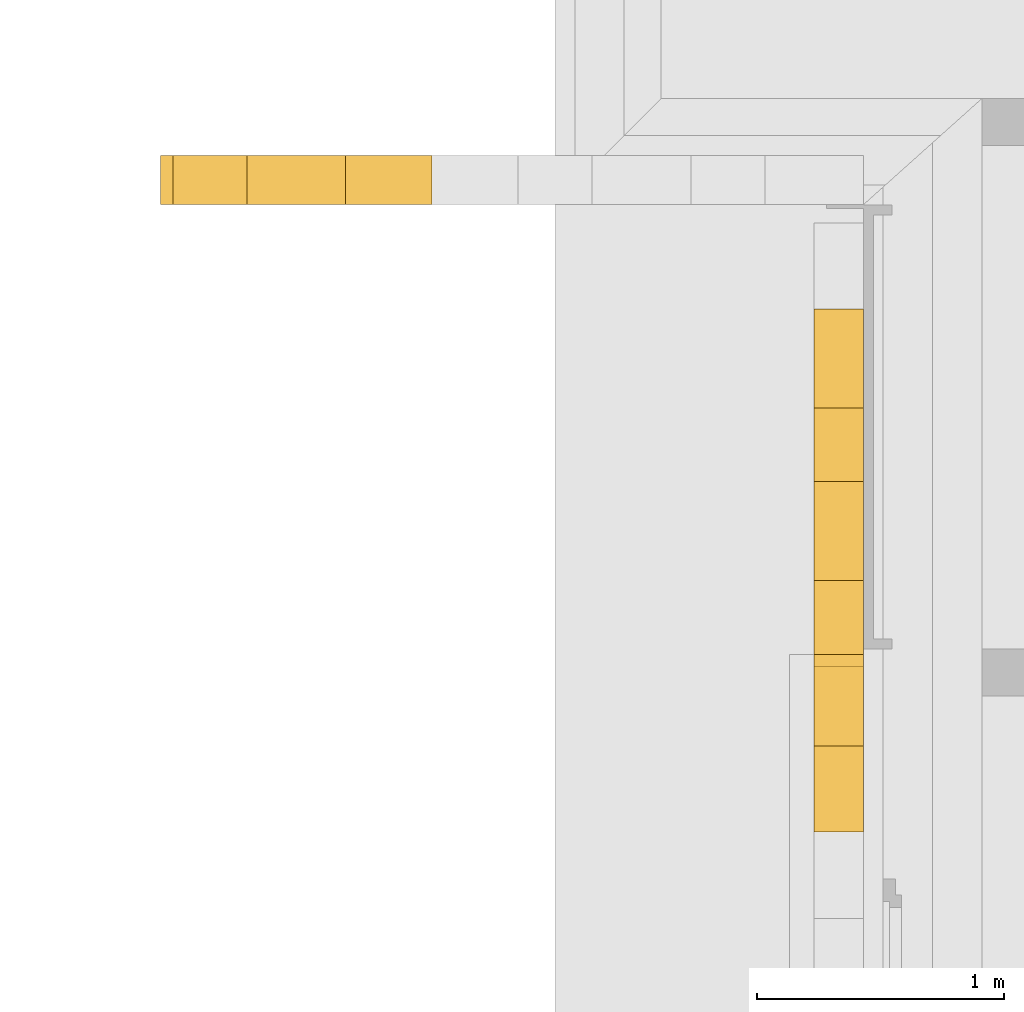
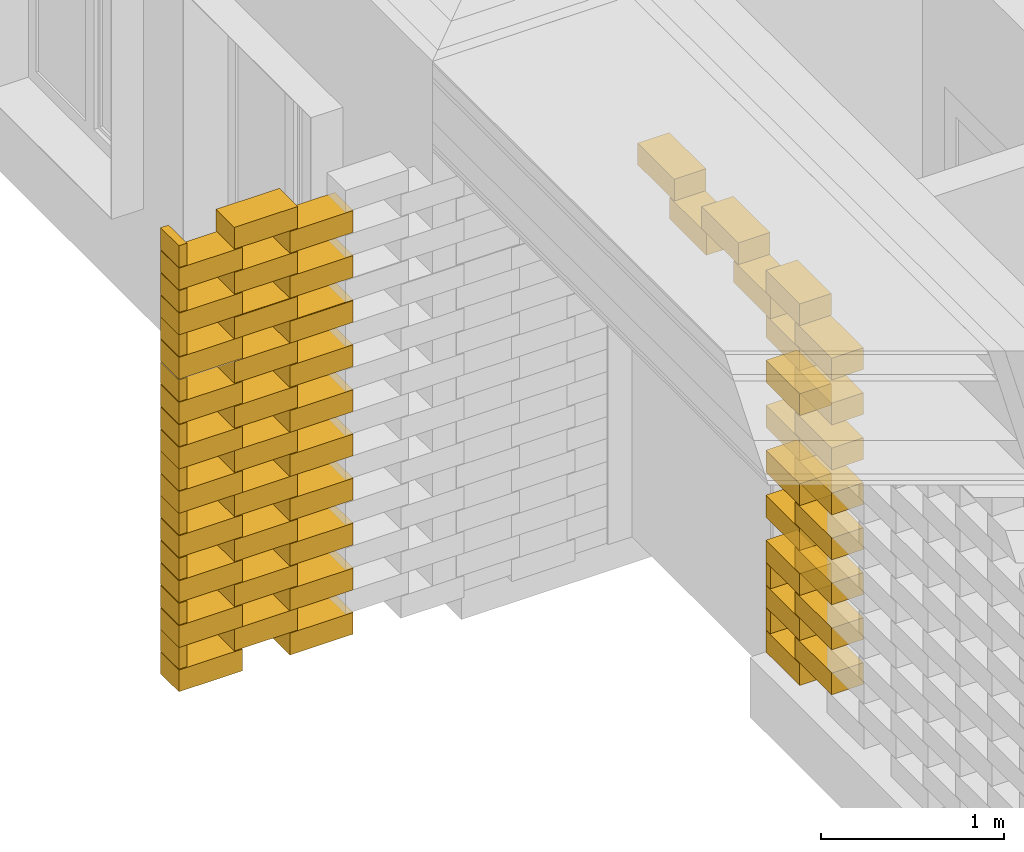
# One storey, part 58 of 62: 69 railings.
"""IFC2X3 building model written with IfcOpenShell, lengths in millimetres."""

from ifc_helpers import new_model, entity, si_unit, converted_unit, derived_unit, money_unit, direction, frame, origin_with_axes, place, context, subcontext, project, spatial, polyline, outline, extrude, material, type_object, element, save


model = new_model("IFC2X3")

# Units and contexts
model_context = context("Model", 3, precision=0.01, world=origin_with_axes(), true_north=direction((0.0, 1.0)))
body_context = subcontext(model_context, "Body", "Model", "MODEL_VIEW")
ifc_project = project(units=[si_unit("LENGTHUNIT", "METRE", prefix="MILLI"), si_unit("AREAUNIT", "SQUARE_METRE"), si_unit("VOLUMEUNIT", "CUBIC_METRE"), converted_unit("PLANEANGLEUNIT", "DEGREE", entity("IfcPlaneAngleMeasure", 0.0174532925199), si_unit("PLANEANGLEUNIT", "RADIAN"), dimensions=[0, 0, 0, 0, 0, 0, 0]), si_unit("SOLIDANGLEUNIT", "STERADIAN"), money_unit("EUR"), converted_unit("TIMEUNIT", "Year", entity("IfcTimeMeasure", 31556926.0), si_unit("TIMEUNIT", "SECOND"), dimensions=[0, 0, 1, 0, 0, 0, 0]), si_unit("MASSUNIT", "GRAM", prefix="KILO"), si_unit("THERMODYNAMICTEMPERATUREUNIT", "DEGREE_CELSIUS"), si_unit("LUMINOUSINTENSITYUNIT", "LUMEN"), si_unit("ENERGYUNIT", "JOULE", prefix="MEGA"), derived_unit("THERMALCONDUCTANCEUNIT", [(si_unit("POWERUNIT", "WATT"), 1), (si_unit("LENGTHUNIT", "METRE"), -1), (si_unit("THERMODYNAMICTEMPERATUREUNIT", "KELVIN"), -1)]), derived_unit("SPECIFICHEATCAPACITYUNIT", [(si_unit("ENERGYUNIT", "JOULE"), 1), (si_unit("MASSUNIT", "GRAM", prefix="KILO"), -1), (si_unit("THERMODYNAMICTEMPERATUREUNIT", "KELVIN"), -1)]), derived_unit("MASSDENSITYUNIT", [(si_unit("MASSUNIT", "GRAM", prefix="KILO"), 1), (si_unit("VOLUMEUNIT", "CUBIC_METRE"), -1)])], contexts=[model_context])

# Site, building, storey
site_placement = place(None, origin_with_axes())
site = spatial("IfcSite", under=ifc_project, at=site_placement, Name="KIRDE 14, ELVA", CompositionType="ELEMENT")
building_placement = place(site_placement, origin_with_axes())
building = spatial("IfcBuilding", under=site, at=building_placement, Name="PPA ja Päästeameti ühishoone", CompositionType="ELEMENT")
storey_placement = place(building_placement, origin_with_axes())
storey = spatial("IfcBuildingStorey", under=building, at=storey_placement, Name="Esimene korrus", CompositionType="ELEMENT", Elevation=0.0)

# Railings
ifc_material = material(Name="Air Space")
railing_type = type_object("IfcRailingType", Name="Air Space 200", PredefinedType="NOTDEFINED")
railing_1_placement = place(storey_placement, frame((-1979.99985324, 11170.3967568, 700.0), z_axis=(0.0, 0.0, 1.0), x_axis=(-1.0, 0.0, 0.0)))
element("IfcRailing", 1, at=railing_1_placement, inside=storey, type_object=railing_type, material=ifc_material, Name="plokk", PredefinedType="NOTDEFINED", context=body_context, shape_type="SweptSolid", body=[
    extrude(outline(polyline([(0.0, 0.0), (50.0000000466, 0.0), (50.0000000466, 200.0), (0.0, 200.0), (0.0, 0.0)])), origin_with_axes(), (0.0, 0.0, 1.0), 145.0),
])
railing_2_placement = place(storey_placement, frame((-929.999853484, 11170.3967578, 550.0), z_axis=(0.0, 0.0, 1.0), x_axis=(-1.0, -2.32830643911e-09, 0.0)))
element("IfcRailing", 2, at=railing_2_placement, inside=storey, type_object=railing_type, material=ifc_material, Name="plokk", PredefinedType="NOTDEFINED", context=body_context, shape_type="SweptSolid", body=[
    extrude(outline(polyline([(0.0, 0.0), (399.999999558, 0.0), (399.999999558, 200.0), (0.0, 200.0), (0.0, 0.0)])), origin_with_axes(), (0.0, 0.0, 1.0), 145.0),
])
for number, where, z_axis, x_axis in (
    (3, (620.000147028, 10196.9244882, 2650.0), (0.0, 0.0, 1.0), (1.30967237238e-09, -1.0, 0.0)),
    (4, (620.000146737, 10546.9244879, 2800.0), (0.0, 0.0, 1.0), (2.91038304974e-10, -1.0, 0.0)),
):
    element("IfcRailing", number, at=place(storey_placement, frame(where, z_axis=z_axis, x_axis=x_axis)), inside=storey, type_object=railing_type, material=ifc_material, Name="plokk", PredefinedType="NOTDEFINED", context=body_context, shape_type="SweptSolid", body=[
        extrude(outline(polyline([(0.0, 0.0), (399.999999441, 0.0), (399.999999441, 200.0), (0.0, 200.0), (0.0, 0.0)])), origin_with_axes(), (0.0, 0.0, 1.0), 145.0),
    ])
railing_3_placement = place(storey_placement, frame((-1629.99985303, 11170.3967578, 550.0), z_axis=(0.0, 0.0, 1.0), x_axis=(-1.0, -2.32830643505e-09, 0.0)))
element("IfcRailing", 5, at=railing_3_placement, inside=storey, type_object=railing_type, material=ifc_material, Name="plokk", PredefinedType="NOTDEFINED", context=body_context, shape_type="SweptSolid", body=[
    extrude(outline(polyline([(0.0, 0.0), (400.000000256, 0.0), (400.000000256, 200.0), (0.0, 200.0), (0.0, 0.0)])), origin_with_axes(), (0.0, 0.0, 1.0), 145.0),
])
railing_4_placement = place(storey_placement, frame((-1279.999853, 11170.3967568, 700.0), z_axis=(0.0, 0.0, 1.0), x_axis=(-1.0, -2.32830643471e-09, 0.0)))
element("IfcRailing", 6, at=railing_4_placement, inside=storey, type_object=railing_type, material=ifc_material, Name="plokk", PredefinedType="NOTDEFINED", context=body_context, shape_type="SweptSolid", body=[
    extrude(outline(polyline([(0.0, 0.0), (400.000000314, 0.0), (400.000000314, 200.0), (0.0, 200.0), (0.0, 0.0)])), origin_with_axes(), (0.0, 0.0, 1.0), 145.0),
])
railing_5_placement = place(storey_placement, frame((-929.999853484, 11170.3967578, 250.0), z_axis=(0.0, 0.0, 1.0), x_axis=(-1.0, -2.32830643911e-09, 0.0)))
element("IfcRailing", 7, at=railing_5_placement, inside=storey, type_object=railing_type, material=ifc_material, Name="plokk", PredefinedType="NOTDEFINED", context=body_context, shape_type="SweptSolid", body=[
    extrude(outline(polyline([(0.0, 0.0), (399.999999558, 0.0), (399.999999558, 200.0), (0.0, 200.0), (0.0, 0.0)])), origin_with_axes(), (0.0, 0.0, 1.0), 145.0),
])
railing_6_placement = place(storey_placement, frame((-1279.999853, 11170.3967568, 105.0), z_axis=(0.0, 0.0, 1.0), x_axis=(-1.0, -2.32830643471e-09, 0.0)))
element("IfcRailing", 8, at=railing_6_placement, inside=storey, type_object=railing_type, material=ifc_material, Name="plokk", PredefinedType="NOTDEFINED", context=body_context, shape_type="SweptSolid", body=[
    extrude(outline(polyline([(0.0, 0.0), (400.000000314, 0.0), (400.000000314, 200.0), (0.0, 200.0), (0.0, 0.0)])), origin_with_axes(), (0.0, 0.0, 1.0), 145.0),
])
for number, where, z_axis, x_axis in (
    (9, (-1629.99985303, 11170.3967578, 250.0), (0.0, 0.0, 1.0), (-1.0, -2.32830643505e-09, 0.0)),
    (10, (-1629.99985303, 11170.3967578, -45.0), (0.0, 0.0, 1.0), (-1.0, -2.32830643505e-09, 0.0)),
):
    element("IfcRailing", number, at=place(storey_placement, frame(where, z_axis=z_axis, x_axis=x_axis)), inside=storey, type_object=railing_type, material=ifc_material, Name="plokk", PredefinedType="NOTDEFINED", context=body_context, shape_type="SweptSolid", body=[
        extrude(outline(polyline([(0.0, 0.0), (400.000000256, 0.0), (400.000000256, 200.0), (0.0, 200.0), (0.0, 0.0)])), origin_with_axes(), (0.0, 0.0, 1.0), 145.0),
    ])
railing_7_placement = place(storey_placement, frame((-1279.999853, 11170.3967568, 400.0), z_axis=(0.0, 0.0, 1.0), x_axis=(-1.0, -2.32830643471e-09, 0.0)))
element("IfcRailing", 11, at=railing_7_placement, inside=storey, type_object=railing_type, material=ifc_material, Name="plokk", PredefinedType="NOTDEFINED", context=body_context, shape_type="SweptSolid", body=[
    extrude(outline(polyline([(0.0, 0.0), (400.000000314, 0.0), (400.000000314, 200.0), (0.0, 200.0), (0.0, 0.0)])), origin_with_axes(), (0.0, 0.0, 1.0), 145.0),
])
railing_8_placement = place(storey_placement, frame((-1979.99985324, 11170.3967568, 1000.0), z_axis=(0.0, 0.0, 1.0), x_axis=(-1.0, 0.0, 0.0)))
element("IfcRailing", 12, at=railing_8_placement, inside=storey, type_object=railing_type, material=ifc_material, Name="plokk", PredefinedType="NOTDEFINED", context=body_context, shape_type="SweptSolid", body=[
    extrude(outline(polyline([(0.0, 0.0), (50.0000000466, 0.0), (50.0000000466, 200.0), (0.0, 200.0), (0.0, 0.0)])), origin_with_axes(), (0.0, 0.0, 1.0), 145.0),
])
railing_9_placement = place(storey_placement, frame((-1279.999853, 11170.3967568, 1000.0), z_axis=(0.0, 0.0, 1.0), x_axis=(-1.0, -2.32830643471e-09, 0.0)))
element("IfcRailing", 13, at=railing_9_placement, inside=storey, type_object=railing_type, material=ifc_material, Name="plokk", PredefinedType="NOTDEFINED", context=body_context, shape_type="SweptSolid", body=[
    extrude(outline(polyline([(0.0, 0.0), (400.000000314, 0.0), (400.000000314, 200.0), (0.0, 200.0), (0.0, 0.0)])), origin_with_axes(), (0.0, 0.0, 1.0), 145.0),
])
for number, where, z_axis, x_axis in (
    (14, (-929.999853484, 11170.3967578, 850.0), (0.0, 0.0, 1.0), (-1.0, -2.32830643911e-09, 0.0)),
    (15, (-929.999853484, 11170.3967578, -45.0), (0.0, 0.0, 1.0), (-1.0, -2.32830643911e-09, 0.0)),
):
    element("IfcRailing", number, at=place(storey_placement, frame(where, z_axis=z_axis, x_axis=x_axis)), inside=storey, type_object=railing_type, material=ifc_material, Name="plokk", PredefinedType="NOTDEFINED", context=body_context, shape_type="SweptSolid", body=[
        extrude(outline(polyline([(0.0, 0.0), (399.999999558, 0.0), (399.999999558, 200.0), (0.0, 200.0), (0.0, 0.0)])), origin_with_axes(), (0.0, 0.0, 1.0), 145.0),
    ])
railing_10_placement = place(storey_placement, frame((-1979.99985324, 11170.3967568, 105.0), z_axis=(0.0, 0.0, 1.0), x_axis=(-1.0, 0.0, 0.0)))
element("IfcRailing", 16, at=railing_10_placement, inside=storey, type_object=railing_type, material=ifc_material, Name="plokk", PredefinedType="NOTDEFINED", context=body_context, shape_type="SweptSolid", body=[
    extrude(outline(polyline([(0.0, 0.0), (50.0000000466, 0.0), (50.0000000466, 200.0), (0.0, 200.0), (0.0, 0.0)])), origin_with_axes(), (0.0, 0.0, 1.0), 145.0),
])
railing_11_placement = place(storey_placement, frame((620.000147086, 9146.92448748, 550.0), z_axis=(0.0, 0.0, 1.0), x_axis=(4.65661289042e-09, -1.0, 0.0)))
element("IfcRailing", 17, at=railing_11_placement, inside=storey, type_object=railing_type, material=ifc_material, Name="plokk", PredefinedType="NOTDEFINED", context=body_context, shape_type="SweptSolid", body=[
    extrude(outline(polyline([(0.0, 0.0), (49.9999998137, 0.0), (49.9999998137, 200.0), (0.0, 200.0), (0.0, 0.0)])), origin_with_axes(), (0.0, 0.0, 1.0), 145.0),
])
railing_12_placement = place(storey_placement, frame((-1629.99985303, 11170.3967578, 850.0), z_axis=(0.0, 0.0, 1.0), x_axis=(-1.0, -2.32830643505e-09, 0.0)))
element("IfcRailing", 18, at=railing_12_placement, inside=storey, type_object=railing_type, material=ifc_material, Name="plokk", PredefinedType="NOTDEFINED", context=body_context, shape_type="SweptSolid", body=[
    extrude(outline(polyline([(0.0, 0.0), (400.000000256, 0.0), (400.000000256, 200.0), (0.0, 200.0), (0.0, 0.0)])), origin_with_axes(), (0.0, 0.0, 1.0), 145.0),
])
railing_13_placement = place(storey_placement, frame((-1279.99985346, 11170.3967568, 1590.0), z_axis=(0.0, 0.0, 1.0), x_axis=(-1.0, -2.32830643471e-09, 0.0)))
element("IfcRailing", 19, at=railing_13_placement, inside=storey, type_object=railing_type, material=ifc_material, Name="plokk", PredefinedType="NOTDEFINED", context=body_context, shape_type="SweptSolid", body=[
    extrude(outline(polyline([(0.0, 0.0), (400.000000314, 0.0), (400.000000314, 200.0), (0.0, 200.0), (0.0, 0.0)])), origin_with_axes(), (0.0, 0.0, 1.0), 145.0),
])
railing_14_placement = place(storey_placement, frame((-1979.99985371, 11170.3967568, 1590.0), z_axis=(0.0, 0.0, 1.0), x_axis=(-1.0, 0.0, 0.0)))
element("IfcRailing", 20, at=railing_14_placement, inside=storey, type_object=railing_type, material=ifc_material, Name="plokk", PredefinedType="NOTDEFINED", context=body_context, shape_type="SweptSolid", body=[
    extrude(outline(polyline([(0.0, 0.0), (50.0000000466, 0.0), (50.0000000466, 200.0), (0.0, 200.0), (0.0, 0.0)])), origin_with_axes(), (0.0, 0.0, 1.0), 145.0),
])
railing_15_placement = place(storey_placement, frame((-929.99985395, 11170.3967578, 1740.0), z_axis=(0.0, 0.0, 1.0), x_axis=(-1.0, -2.32830643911e-09, 0.0)))
element("IfcRailing", 21, at=railing_15_placement, inside=storey, type_object=railing_type, material=ifc_material, Name="plokk", PredefinedType="NOTDEFINED", context=body_context, shape_type="SweptSolid", body=[
    extrude(outline(polyline([(0.0, 0.0), (399.999999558, 0.0), (399.999999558, 200.0), (0.0, 200.0), (0.0, 0.0)])), origin_with_axes(), (0.0, 0.0, 1.0), 145.0),
])
railing_16_placement = place(storey_placement, frame((-1279.99985346, 11170.3967568, 1890.0), z_axis=(0.0, 0.0, 1.0), x_axis=(-1.0, -2.32830643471e-09, 0.0)))
element("IfcRailing", 22, at=railing_16_placement, inside=storey, type_object=railing_type, material=ifc_material, Name="plokk", PredefinedType="NOTDEFINED", context=body_context, shape_type="SweptSolid", body=[
    extrude(outline(polyline([(0.0, 0.0), (400.000000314, 0.0), (400.000000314, 200.0), (0.0, 200.0), (0.0, 0.0)])), origin_with_axes(), (0.0, 0.0, 1.0), 145.0),
])
railing_17_placement = place(storey_placement, frame((-1979.99985371, 11170.3967568, 1890.0), z_axis=(0.0, 0.0, 1.0), x_axis=(-1.0, 0.0, 0.0)))
element("IfcRailing", 23, at=railing_17_placement, inside=storey, type_object=railing_type, material=ifc_material, Name="plokk", PredefinedType="NOTDEFINED", context=body_context, shape_type="SweptSolid", body=[
    extrude(outline(polyline([(0.0, 0.0), (50.0000000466, 0.0), (50.0000000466, 200.0), (0.0, 200.0), (0.0, 0.0)])), origin_with_axes(), (0.0, 0.0, 1.0), 145.0),
])
railing_18_placement = place(storey_placement, frame((-929.99985395, 11170.3967578, 2040.0), z_axis=(0.0, 0.0, 1.0), x_axis=(-1.0, -2.32830643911e-09, 0.0)))
element("IfcRailing", 24, at=railing_18_placement, inside=storey, type_object=railing_type, material=ifc_material, Name="plokk", PredefinedType="NOTDEFINED", context=body_context, shape_type="SweptSolid", body=[
    extrude(outline(polyline([(0.0, 0.0), (399.999999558, 0.0), (399.999999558, 200.0), (0.0, 200.0), (0.0, 0.0)])), origin_with_axes(), (0.0, 0.0, 1.0), 145.0),
])
railing_19_placement = place(storey_placement, frame((-1629.9998535, 11170.3967578, 2040.0), z_axis=(0.0, 0.0, 1.0), x_axis=(-1.0, -2.32830643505e-09, 0.0)))
element("IfcRailing", 25, at=railing_19_placement, inside=storey, type_object=railing_type, material=ifc_material, Name="plokk", PredefinedType="NOTDEFINED", context=body_context, shape_type="SweptSolid", body=[
    extrude(outline(polyline([(0.0, 0.0), (400.000000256, 0.0), (400.000000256, 200.0), (0.0, 200.0), (0.0, 0.0)])), origin_with_axes(), (0.0, 0.0, 1.0), 145.0),
])
railing_20_placement = place(storey_placement, frame((-1279.99985346, 11170.3967568, 2190.0), z_axis=(0.0, 0.0, 1.0), x_axis=(-1.0, -2.32830643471e-09, 0.0)))
element("IfcRailing", 26, at=railing_20_placement, inside=storey, type_object=railing_type, material=ifc_material, Name="plokk", PredefinedType="NOTDEFINED", context=body_context, shape_type="SweptSolid", body=[
    extrude(outline(polyline([(0.0, 0.0), (400.000000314, 0.0), (400.000000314, 200.0), (0.0, 200.0), (0.0, 0.0)])), origin_with_axes(), (0.0, 0.0, 1.0), 145.0),
])
railing_21_placement = place(storey_placement, frame((-1979.99985371, 11170.3967568, 2190.0), z_axis=(0.0, 0.0, 1.0), x_axis=(-1.0, 0.0, 0.0)))
element("IfcRailing", 27, at=railing_21_placement, inside=storey, type_object=railing_type, material=ifc_material, Name="plokk", PredefinedType="NOTDEFINED", context=body_context, shape_type="SweptSolid", body=[
    extrude(outline(polyline([(0.0, 0.0), (50.0000000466, 0.0), (50.0000000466, 200.0), (0.0, 200.0), (0.0, 0.0)])), origin_with_axes(), (0.0, 0.0, 1.0), 145.0),
])
railing_22_placement = place(storey_placement, frame((-929.99985395, 11170.3967578, 1440.0), z_axis=(0.0, 0.0, 1.0), x_axis=(-1.0, -2.32830643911e-09, 0.0)))
element("IfcRailing", 28, at=railing_22_placement, inside=storey, type_object=railing_type, material=ifc_material, Name="plokk", PredefinedType="NOTDEFINED", context=body_context, shape_type="SweptSolid", body=[
    extrude(outline(polyline([(0.0, 0.0), (399.999999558, 0.0), (399.999999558, 200.0), (0.0, 200.0), (0.0, 0.0)])), origin_with_axes(), (0.0, 0.0, 1.0), 145.0),
])
for number, where, z_axis, x_axis in (
    (29, (-1629.9998535, 11170.3967578, 1440.0), (0.0, 0.0, 1.0), (-1.0, -2.32830643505e-09, 0.0)),
    (30, (-1629.9998535, 11170.3967578, 1740.0), (0.0, 0.0, 1.0), (-1.0, -2.32830643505e-09, 0.0)),
):
    element("IfcRailing", number, at=place(storey_placement, frame(where, z_axis=z_axis, x_axis=x_axis)), inside=storey, type_object=railing_type, material=ifc_material, Name="plokk", PredefinedType="NOTDEFINED", context=body_context, shape_type="SweptSolid", body=[
        extrude(outline(polyline([(0.0, 0.0), (400.000000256, 0.0), (400.000000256, 200.0), (0.0, 200.0), (0.0, 0.0)])), origin_with_axes(), (0.0, 0.0, 1.0), 145.0),
    ])
railing_23_placement = place(storey_placement, frame((620.000147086, 9146.92448748, 850.0), z_axis=(0.0, 0.0, 1.0), x_axis=(4.65661289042e-09, -1.0, 0.0)))
element("IfcRailing", 31, at=railing_23_placement, inside=storey, type_object=railing_type, material=ifc_material, Name="plokk", PredefinedType="NOTDEFINED", context=body_context, shape_type="SweptSolid", body=[
    extrude(outline(polyline([(0.0, 0.0), (49.9999998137, 0.0), (49.9999998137, 200.0), (0.0, 200.0), (0.0, 0.0)])), origin_with_axes(), (0.0, 0.0, 1.0), 145.0),
])
railing_24_placement = place(storey_placement, frame((-1979.99985324, 11170.3967568, 400.0), z_axis=(0.0, 0.0, 1.0), x_axis=(-1.0, 0.0, 0.0)))
element("IfcRailing", 32, at=railing_24_placement, inside=storey, type_object=railing_type, material=ifc_material, Name="plokk", PredefinedType="NOTDEFINED", context=body_context, shape_type="SweptSolid", body=[
    extrude(outline(polyline([(0.0, 0.0), (50.0000000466, 0.0), (50.0000000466, 200.0), (0.0, 200.0), (0.0, 0.0)])), origin_with_axes(), (0.0, 0.0, 1.0), 145.0),
])
railing_25_placement = place(storey_placement, frame((620.000147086, 9146.92448748, 400.0), z_axis=(0.0, 0.0, 1.0), x_axis=(1.41294323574e-09, -1.0, 0.0)))
element("IfcRailing", 33, at=railing_25_placement, inside=storey, type_object=railing_type, material=ifc_material, Name="plokk", PredefinedType="NOTDEFINED", context=body_context, shape_type="SweptSolid", body=[
    extrude(outline(polyline([(0.0, 0.0), (370.764327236, 0.0), (370.764327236, 200.0), (0.0, 200.0), (0.0, 0.0)])), origin_with_axes(), (0.0, 0.0, 1.0), 145.0),
])
railing_26_placement = place(storey_placement, frame((620.000147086, 8826.16016006, 550.0), z_axis=(0.0, 0.0, 1.0), x_axis=(8.73114912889e-10, -1.0, 0.0)))
element("IfcRailing", 34, at=railing_26_placement, inside=storey, type_object=railing_type, material=ifc_material, Name="plokk", PredefinedType="NOTDEFINED", context=body_context, shape_type="SweptSolid", body=[
    extrude(outline(polyline([(0.0, 0.0), (400.000000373, 0.0), (400.000000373, 200.0), (0.0, 200.0), (0.0, 0.0)])), origin_with_axes(), (0.0, 0.0, 1.0), 145.0),
])
railing_27_placement = place(storey_placement, frame((620.000147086, 9146.92448748, 700.0), z_axis=(0.0, 0.0, 1.0), x_axis=(1.41294323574e-09, -1.0, 0.0)))
element("IfcRailing", 35, at=railing_27_placement, inside=storey, type_object=railing_type, material=ifc_material, Name="plokk", PredefinedType="NOTDEFINED", context=body_context, shape_type="SweptSolid", body=[
    extrude(outline(polyline([(0.0, 0.0), (370.764327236, 0.0), (370.764327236, 200.0), (0.0, 200.0), (0.0, 0.0)])), origin_with_axes(), (0.0, 0.0, 1.0), 145.0),
])
railing_28_placement = place(storey_placement, frame((620.000147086, 8826.16016006, 850.0), z_axis=(0.0, 0.0, 1.0), x_axis=(8.73114912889e-10, -1.0, 0.0)))
element("IfcRailing", 36, at=railing_28_placement, inside=storey, type_object=railing_type, material=ifc_material, Name="plokk", PredefinedType="NOTDEFINED", context=body_context, shape_type="SweptSolid", body=[
    extrude(outline(polyline([(0.0, 0.0), (400.000000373, 0.0), (400.000000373, 200.0), (0.0, 200.0), (0.0, 0.0)])), origin_with_axes(), (0.0, 0.0, 1.0), 145.0),
])
railing_29_placement = place(storey_placement, frame((620.000147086, 9146.92448748, 1000.0), z_axis=(0.0, 0.0, 1.0), x_axis=(1.41294323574e-09, -1.0, 0.0)))
element("IfcRailing", 37, at=railing_29_placement, inside=storey, type_object=railing_type, material=ifc_material, Name="plokk", PredefinedType="NOTDEFINED", context=body_context, shape_type="SweptSolid", body=[
    extrude(outline(polyline([(0.0, 0.0), (370.764327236, 0.0), (370.764327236, 200.0), (0.0, 200.0), (0.0, 0.0)])), origin_with_axes(), (0.0, 0.0, 1.0), 145.0),
])
railing_30_placement = place(storey_placement, frame((-1279.99985346, 11170.3967568, 1295.0), z_axis=(0.0, 0.0, 1.0), x_axis=(-1.0, -2.32830643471e-09, 0.0)))
element("IfcRailing", 38, at=railing_30_placement, inside=storey, type_object=railing_type, material=ifc_material, Name="plokk", PredefinedType="NOTDEFINED", context=body_context, shape_type="SweptSolid", body=[
    extrude(outline(polyline([(0.0, 0.0), (400.000000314, 0.0), (400.000000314, 200.0), (0.0, 200.0), (0.0, 0.0)])), origin_with_axes(), (0.0, 0.0, 1.0), 145.0),
])
railing_31_placement = place(storey_placement, frame((-1979.99985371, 11170.3967568, 1295.0), z_axis=(0.0, 0.0, 1.0), x_axis=(-1.0, 0.0, 0.0)))
element("IfcRailing", 39, at=railing_31_placement, inside=storey, type_object=railing_type, material=ifc_material, Name="plokk", PredefinedType="NOTDEFINED", context=body_context, shape_type="SweptSolid", body=[
    extrude(outline(polyline([(0.0, 0.0), (50.0000000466, 0.0), (50.0000000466, 200.0), (0.0, 200.0), (0.0, 0.0)])), origin_with_axes(), (0.0, 0.0, 1.0), 145.0),
])
railing_32_placement = place(storey_placement, frame((-929.99985395, 11170.3967578, 1145.0), z_axis=(0.0, 0.0, 1.0), x_axis=(-1.0, -2.32830643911e-09, 0.0)))
element("IfcRailing", 40, at=railing_32_placement, inside=storey, type_object=railing_type, material=ifc_material, Name="plokk", PredefinedType="NOTDEFINED", context=body_context, shape_type="SweptSolid", body=[
    extrude(outline(polyline([(0.0, 0.0), (399.999999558, 0.0), (399.999999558, 200.0), (0.0, 200.0), (0.0, 0.0)])), origin_with_axes(), (0.0, 0.0, 1.0), 145.0),
])
railing_33_placement = place(storey_placement, frame((-1629.9998535, 11170.3967578, 1145.0), z_axis=(0.0, 0.0, 1.0), x_axis=(-1.0, -2.32830643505e-09, 0.0)))
element("IfcRailing", 41, at=railing_33_placement, inside=storey, type_object=railing_type, material=ifc_material, Name="plokk", PredefinedType="NOTDEFINED", context=body_context, shape_type="SweptSolid", body=[
    extrude(outline(polyline([(0.0, 0.0), (400.000000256, 0.0), (400.000000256, 200.0), (0.0, 200.0), (0.0, 0.0)])), origin_with_axes(), (0.0, 0.0, 1.0), 145.0),
])
railing_34_placement = place(storey_placement, frame((-1279.99985346, 11170.3967568, 2185.0), z_axis=(0.0, 0.0, 1.0), x_axis=(-1.0, -2.32830643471e-09, 0.0)))
element("IfcRailing", 42, at=railing_34_placement, inside=storey, type_object=railing_type, material=ifc_material, Name="plokk", PredefinedType="NOTDEFINED", context=body_context, shape_type="SweptSolid", body=[
    extrude(outline(polyline([(0.0, 0.0), (400.000000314, 0.0), (400.000000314, 200.0), (0.0, 200.0), (0.0, 0.0)])), origin_with_axes(), (0.0, 0.0, 1.0), 145.0),
])
railing_35_placement = place(storey_placement, frame((-1979.99985371, 11170.3967568, 2185.0), z_axis=(0.0, 0.0, 1.0), x_axis=(-1.0, 0.0, 0.0)))
element("IfcRailing", 43, at=railing_35_placement, inside=storey, type_object=railing_type, material=ifc_material, Name="plokk", PredefinedType="NOTDEFINED", context=body_context, shape_type="SweptSolid", body=[
    extrude(outline(polyline([(0.0, 0.0), (50.0000000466, 0.0), (50.0000000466, 200.0), (0.0, 200.0), (0.0, 0.0)])), origin_with_axes(), (0.0, 0.0, 1.0), 145.0),
])
railing_36_placement = place(storey_placement, frame((-929.99985395, 11170.3967578, 2335.0), z_axis=(0.0, 0.0, 1.0), x_axis=(-1.0, -2.32830643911e-09, 0.0)))
element("IfcRailing", 44, at=railing_36_placement, inside=storey, type_object=railing_type, material=ifc_material, Name="plokk", PredefinedType="NOTDEFINED", context=body_context, shape_type="SweptSolid", body=[
    extrude(outline(polyline([(0.0, 0.0), (399.999999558, 0.0), (399.999999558, 200.0), (0.0, 200.0), (0.0, 0.0)])), origin_with_axes(), (0.0, 0.0, 1.0), 145.0),
])
railing_37_placement = place(storey_placement, frame((-1629.9998535, 11170.3967578, 2335.0), z_axis=(0.0, 0.0, 1.0), x_axis=(-1.0, -2.32830643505e-09, 0.0)))
element("IfcRailing", 45, at=railing_37_placement, inside=storey, type_object=railing_type, material=ifc_material, Name="plokk", PredefinedType="NOTDEFINED", context=body_context, shape_type="SweptSolid", body=[
    extrude(outline(polyline([(0.0, 0.0), (400.000000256, 0.0), (400.000000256, 200.0), (0.0, 200.0), (0.0, 0.0)])), origin_with_axes(), (0.0, 0.0, 1.0), 145.0),
])
railing_38_placement = place(storey_placement, frame((-1279.99985346, 11170.3967568, 2485.0), z_axis=(0.0, 0.0, 1.0), x_axis=(-1.0, -2.32830643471e-09, 0.0)))
element("IfcRailing", 46, at=railing_38_placement, inside=storey, type_object=railing_type, material=ifc_material, Name="plokk", PredefinedType="NOTDEFINED", context=body_context, shape_type="SweptSolid", body=[
    extrude(outline(polyline([(0.0, 0.0), (400.000000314, 0.0), (400.000000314, 200.0), (0.0, 200.0), (0.0, 0.0)])), origin_with_axes(), (0.0, 0.0, 1.0), 145.0),
])
railing_39_placement = place(storey_placement, frame((-1979.99985371, 11170.3967568, 2485.0), z_axis=(0.0, 0.0, 1.0), x_axis=(-1.0, 0.0, 0.0)))
element("IfcRailing", 47, at=railing_39_placement, inside=storey, type_object=railing_type, material=ifc_material, Name="plokk", PredefinedType="NOTDEFINED", context=body_context, shape_type="SweptSolid", body=[
    extrude(outline(polyline([(0.0, 0.0), (50.0000000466, 0.0), (50.0000000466, 200.0), (0.0, 200.0), (0.0, 0.0)])), origin_with_axes(), (0.0, 0.0, 1.0), 145.0),
])
railing_40_placement = place(storey_placement, frame((-929.99985395, 11170.3967578, 2635.0), z_axis=(0.0, 0.0, 1.0), x_axis=(-1.0, -2.32830643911e-09, 0.0)))
element("IfcRailing", 48, at=railing_40_placement, inside=storey, type_object=railing_type, material=ifc_material, Name="plokk", PredefinedType="NOTDEFINED", context=body_context, shape_type="SweptSolid", body=[
    extrude(outline(polyline([(0.0, 0.0), (399.999999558, 0.0), (399.999999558, 200.0), (0.0, 200.0), (0.0, 0.0)])), origin_with_axes(), (0.0, 0.0, 1.0), 145.0),
])
railing_41_placement = place(storey_placement, frame((-1629.9998535, 11170.3967578, 2635.0), z_axis=(0.0, 0.0, 1.0), x_axis=(-1.0, -2.32830643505e-09, 0.0)))
element("IfcRailing", 49, at=railing_41_placement, inside=storey, type_object=railing_type, material=ifc_material, Name="plokk", PredefinedType="NOTDEFINED", context=body_context, shape_type="SweptSolid", body=[
    extrude(outline(polyline([(0.0, 0.0), (400.000000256, 0.0), (400.000000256, 200.0), (0.0, 200.0), (0.0, 0.0)])), origin_with_axes(), (0.0, 0.0, 1.0), 145.0),
])
railing_42_placement = place(storey_placement, frame((-1279.99985346, 11170.3967568, 2785.0), z_axis=(0.0, 0.0, 1.0), x_axis=(-1.0, -2.32830643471e-09, 0.0)))
element("IfcRailing", 50, at=railing_42_placement, inside=storey, type_object=railing_type, material=ifc_material, Name="plokk", PredefinedType="NOTDEFINED", context=body_context, shape_type="SweptSolid", body=[
    extrude(outline(polyline([(0.0, 0.0), (400.000000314, 0.0), (400.000000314, 200.0), (0.0, 200.0), (0.0, 0.0)])), origin_with_axes(), (0.0, 0.0, 1.0), 145.0),
])
railing_43_placement = place(storey_placement, frame((-1979.99985371, 11170.3967568, 2785.0), z_axis=(0.0, 0.0, 1.0), x_axis=(-1.0, 0.0, 0.0)))
element("IfcRailing", 51, at=railing_43_placement, inside=storey, type_object=railing_type, material=ifc_material, Name="plokk", PredefinedType="NOTDEFINED", context=body_context, shape_type="SweptSolid", body=[
    extrude(outline(polyline([(0.0, 0.0), (50.0000000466, 0.0), (50.0000000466, 200.0), (0.0, 200.0), (0.0, 0.0)])), origin_with_axes(), (0.0, 0.0, 1.0), 145.0),
])
railing_44_placement = place(storey_placement, frame((-929.99985395, 11170.3967578, 2035.0), z_axis=(0.0, 0.0, 1.0), x_axis=(-1.0, -2.32830643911e-09, 0.0)))
element("IfcRailing", 52, at=railing_44_placement, inside=storey, type_object=railing_type, material=ifc_material, Name="plokk", PredefinedType="NOTDEFINED", context=body_context, shape_type="SweptSolid", body=[
    extrude(outline(polyline([(0.0, 0.0), (399.999999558, 0.0), (399.999999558, 200.0), (0.0, 200.0), (0.0, 0.0)])), origin_with_axes(), (0.0, 0.0, 1.0), 145.0),
])
for number, where, z_axis, x_axis in (
    (53, (620.000147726, 9846.9244886, 2800.0), (0.0, 0.0, 1.0), (-2.91038304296e-10, -1.0, 0.0)),
    (54, (620.000147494, 9496.92448804, 2650.0), (0.0, 0.0, 1.0), (-8.73114912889e-10, -1.0, 0.0)),
):
    element("IfcRailing", number, at=place(storey_placement, frame(where, z_axis=z_axis, x_axis=x_axis)), inside=storey, type_object=railing_type, material=ifc_material, Name="plokk", PredefinedType="NOTDEFINED", context=body_context, shape_type="SweptSolid", body=[
        extrude(outline(polyline([(0.0, 0.0), (400.000000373, 0.0), (400.000000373, 200.0), (0.0, 200.0), (0.0, 0.0)])), origin_with_axes(), (0.0, 0.0, 1.0), 145.0),
    ])
railing_45_placement = place(storey_placement, frame((620.000147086, 9146.92448748, 1000.0), z_axis=(0.0, 0.0, 1.0), x_axis=(1.41294323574e-09, -1.0, 0.0)))
element("IfcRailing", 55, at=railing_45_placement, inside=storey, type_object=railing_type, material=ifc_material, Name="plokk", PredefinedType="NOTDEFINED", context=body_context, shape_type="SweptSolid", body=[
    extrude(outline(polyline([(0.0, 0.0), (370.764327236, 0.0), (370.764327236, 200.0), (0.0, 200.0), (0.0, 0.0)])), origin_with_axes(), (0.0, 0.0, 1.0), 145.0),
])
railing_46_placement = place(storey_placement, frame((620.000147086, 8826.16016006, 1150.0), z_axis=(0.0, 0.0, 1.0), x_axis=(8.73114912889e-10, -1.0, 0.0)))
element("IfcRailing", 56, at=railing_46_placement, inside=storey, type_object=railing_type, material=ifc_material, Name="plokk", PredefinedType="NOTDEFINED", context=body_context, shape_type="SweptSolid", body=[
    extrude(outline(polyline([(0.0, 0.0), (400.000000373, 0.0), (400.000000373, 200.0), (0.0, 200.0), (0.0, 0.0)])), origin_with_axes(), (0.0, 0.0, 1.0), 145.0),
])
railing_47_placement = place(storey_placement, frame((620.000147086, 9146.92448748, 1300.0), z_axis=(0.0, 0.0, 1.0), x_axis=(1.41294323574e-09, -1.0, 0.0)))
element("IfcRailing", 57, at=railing_47_placement, inside=storey, type_object=railing_type, material=ifc_material, Name="plokk", PredefinedType="NOTDEFINED", context=body_context, shape_type="SweptSolid", body=[
    extrude(outline(polyline([(0.0, 0.0), (370.764327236, 0.0), (370.764327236, 200.0), (0.0, 200.0), (0.0, 0.0)])), origin_with_axes(), (0.0, 0.0, 1.0), 145.0),
])
railing_48_placement = place(storey_placement, frame((620.000147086, 8826.16016006, 1450.0), z_axis=(0.0, 0.0, 1.0), x_axis=(8.73114912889e-10, -1.0, 0.0)))
element("IfcRailing", 58, at=railing_48_placement, inside=storey, type_object=railing_type, material=ifc_material, Name="plokk", PredefinedType="NOTDEFINED", context=body_context, shape_type="SweptSolid", body=[
    extrude(outline(polyline([(0.0, 0.0), (400.000000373, 0.0), (400.000000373, 200.0), (0.0, 200.0), (0.0, 0.0)])), origin_with_axes(), (0.0, 0.0, 1.0), 145.0),
])
for number, where, z_axis, x_axis in (
    (59, (620.000147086, 9146.92448748, 1600.0), (0.0, 0.0, 1.0), (1.41294323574e-09, -1.0, 0.0)),
    (60, (620.000147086, 9146.92448748, 1600.0), (0.0, 0.0, 1.0), (1.41294323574e-09, -1.0, 0.0)),
):
    element("IfcRailing", number, at=place(storey_placement, frame(where, z_axis=z_axis, x_axis=x_axis)), inside=storey, type_object=railing_type, material=ifc_material, Name="plokk", PredefinedType="NOTDEFINED", context=body_context, shape_type="SweptSolid", body=[
        extrude(outline(polyline([(0.0, 0.0), (370.764327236, 0.0), (370.764327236, 200.0), (0.0, 200.0), (0.0, 0.0)])), origin_with_axes(), (0.0, 0.0, 1.0), 145.0),
    ])
railing_49_placement = place(storey_placement, frame((620.000147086, 8826.16016006, 1750.0), z_axis=(0.0, 0.0, 1.0), x_axis=(8.73114912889e-10, -1.0, 0.0)))
element("IfcRailing", 61, at=railing_49_placement, inside=storey, type_object=railing_type, material=ifc_material, Name="plokk", PredefinedType="NOTDEFINED", context=body_context, shape_type="SweptSolid", body=[
    extrude(outline(polyline([(0.0, 0.0), (400.000000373, 0.0), (400.000000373, 200.0), (0.0, 200.0), (0.0, 0.0)])), origin_with_axes(), (0.0, 0.0, 1.0), 145.0),
])
railing_50_placement = place(storey_placement, frame((620.000147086, 9146.92448748, 1900.0), z_axis=(0.0, 0.0, 1.0), x_axis=(1.41294323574e-09, -1.0, 0.0)))
element("IfcRailing", 62, at=railing_50_placement, inside=storey, type_object=railing_type, material=ifc_material, Name="plokk", PredefinedType="NOTDEFINED", context=body_context, shape_type="SweptSolid", body=[
    extrude(outline(polyline([(0.0, 0.0), (370.764327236, 0.0), (370.764327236, 200.0), (0.0, 200.0), (0.0, 0.0)])), origin_with_axes(), (0.0, 0.0, 1.0), 145.0),
])
railing_51_placement = place(storey_placement, frame((620.000147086, 8826.16016006, 2050.0), z_axis=(0.0, 0.0, 1.0), x_axis=(8.73114912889e-10, -1.0, 0.0)))
element("IfcRailing", 63, at=railing_51_placement, inside=storey, type_object=railing_type, material=ifc_material, Name="plokk", PredefinedType="NOTDEFINED", context=body_context, shape_type="SweptSolid", body=[
    extrude(outline(polyline([(0.0, 0.0), (400.000000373, 0.0), (400.000000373, 200.0), (0.0, 200.0), (0.0, 0.0)])), origin_with_axes(), (0.0, 0.0, 1.0), 145.0),
])
for number, where, z_axis, x_axis in (
    (64, (620.000147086, 9146.92448748, 2200.0), (0.0, 0.0, 1.0), (1.41294323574e-09, -1.0, 0.0)),
    (65, (620.000147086, 9146.92448748, 2200.0), (0.0, 0.0, 1.0), (1.41294323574e-09, -1.0, 0.0)),
):
    element("IfcRailing", number, at=place(storey_placement, frame(where, z_axis=z_axis, x_axis=x_axis)), inside=storey, type_object=railing_type, material=ifc_material, Name="plokk", PredefinedType="NOTDEFINED", context=body_context, shape_type="SweptSolid", body=[
        extrude(outline(polyline([(0.0, 0.0), (370.764327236, 0.0), (370.764327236, 200.0), (0.0, 200.0), (0.0, 0.0)])), origin_with_axes(), (0.0, 0.0, 1.0), 145.0),
    ])
railing_52_placement = place(storey_placement, frame((620.000147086, 8826.16016006, 2350.0), z_axis=(0.0, 0.0, 1.0), x_axis=(8.73114912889e-10, -1.0, 0.0)))
element("IfcRailing", 66, at=railing_52_placement, inside=storey, type_object=railing_type, material=ifc_material, Name="plokk", PredefinedType="NOTDEFINED", context=body_context, shape_type="SweptSolid", body=[
    extrude(outline(polyline([(0.0, 0.0), (400.000000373, 0.0), (400.000000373, 200.0), (0.0, 200.0), (0.0, 0.0)])), origin_with_axes(), (0.0, 0.0, 1.0), 145.0),
])
railing_53_placement = place(storey_placement, frame((620.000147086, 9146.92448748, 2500.0), z_axis=(0.0, 0.0, 1.0), x_axis=(1.41294323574e-09, -1.0, 0.0)))
element("IfcRailing", 67, at=railing_53_placement, inside=storey, type_object=railing_type, material=ifc_material, Name="plokk", PredefinedType="NOTDEFINED", context=body_context, shape_type="SweptSolid", body=[
    extrude(outline(polyline([(0.0, 0.0), (370.764327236, 0.0), (370.764327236, 200.0), (0.0, 200.0), (0.0, 0.0)])), origin_with_axes(), (0.0, 0.0, 1.0), 145.0),
])
railing_54_placement = place(storey_placement, frame((620.000147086, 8826.16016006, 2650.0), z_axis=(0.0, 0.0, 1.0), x_axis=(8.73114912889e-10, -1.0, 0.0)))
element("IfcRailing", 68, at=railing_54_placement, inside=storey, type_object=railing_type, material=ifc_material, Name="plokk", PredefinedType="NOTDEFINED", context=body_context, shape_type="SweptSolid", body=[
    extrude(outline(polyline([(0.0, 0.0), (400.000000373, 0.0), (400.000000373, 200.0), (0.0, 200.0), (0.0, 0.0)])), origin_with_axes(), (0.0, 0.0, 1.0), 145.0),
])
railing_55_placement = place(storey_placement, frame((620.000147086, 9146.92448748, 2800.0), z_axis=(0.0, 0.0, 1.0), x_axis=(1.41294323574e-09, -1.0, 0.0)))
element("IfcRailing", 69, at=railing_55_placement, inside=storey, type_object=railing_type, material=ifc_material, Name="plokk", PredefinedType="NOTDEFINED", context=body_context, shape_type="SweptSolid", body=[
    extrude(outline(polyline([(0.0, 0.0), (370.764327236, 0.0), (370.764327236, 200.0), (0.0, 200.0), (0.0, 0.0)])), origin_with_axes(), (0.0, 0.0, 1.0), 145.0),
])

save(model, "model.ifc")
